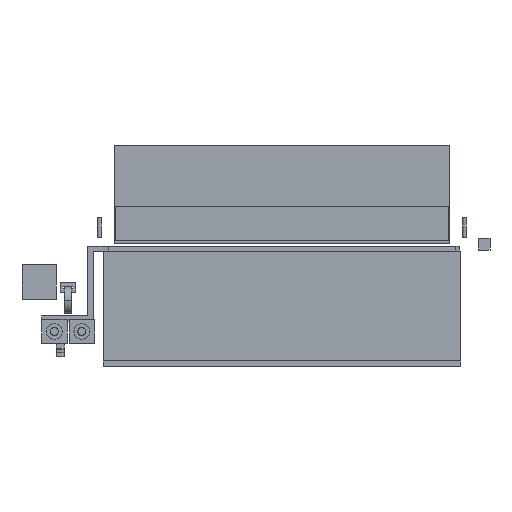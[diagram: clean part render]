
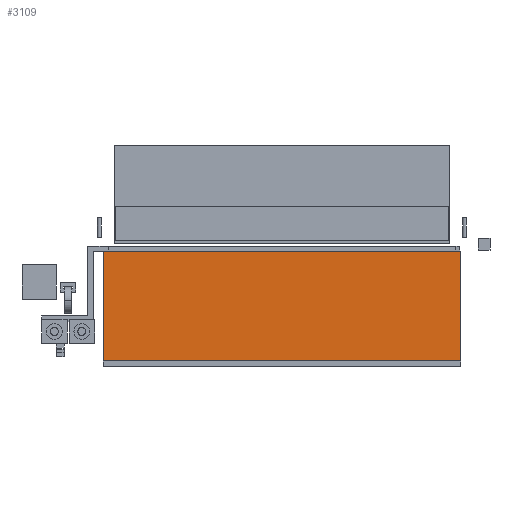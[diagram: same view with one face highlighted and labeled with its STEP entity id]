
A CAD part, front view. The second image highlights one B-rep face of the part: STEP entity #3109.
In plain terms, the highlighted planar face has unit normal (0, -1, 0).
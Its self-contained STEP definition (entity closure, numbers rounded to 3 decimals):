
#3033 = EDGE_CURVE('',#3034,#3036,#3038,.T.);
#3034 = VERTEX_POINT('',#3035);
#3035 = CARTESIAN_POINT('',(-12.,-212.,22.));
#3036 = VERTEX_POINT('',#3037);
#3037 = CARTESIAN_POINT('',(-12.,-212.,134.));
#3038 = LINE('',#3039,#3040);
#3039 = CARTESIAN_POINT('',(-12.,-212.,22.));
#3040 = VECTOR('',#3041,1.);
#3041 = DIRECTION('',(0.,0.,1.));
#3073 = EDGE_CURVE('',#3074,#3076,#3078,.T.);
#3074 = VERTEX_POINT('',#3075);
#3075 = CARTESIAN_POINT('',(352.5,-212.,22.));
#3076 = VERTEX_POINT('',#3077);
#3077 = CARTESIAN_POINT('',(352.5,-212.,134.));
#3078 = LINE('',#3079,#3080);
#3079 = CARTESIAN_POINT('',(352.5,-212.,22.));
#3080 = VECTOR('',#3081,1.);
#3081 = DIRECTION('',(0.,0.,1.));
#3109 = ADVANCED_FACE('',(#3110),#3126,.F.);
#3110 = FACE_BOUND('',#3111,.F.);
#3111 = EDGE_LOOP('',(#3112,#3118,#3119,#3125));
#3112 = ORIENTED_EDGE('',*,*,#3113,.F.);
#3113 = EDGE_CURVE('',#3034,#3074,#3114,.T.);
#3114 = LINE('',#3115,#3116);
#3115 = CARTESIAN_POINT('',(-12.,-212.,22.));
#3116 = VECTOR('',#3117,1.);
#3117 = DIRECTION('',(1.,0.,-0.));
#3118 = ORIENTED_EDGE('',*,*,#3033,.T.);
#3119 = ORIENTED_EDGE('',*,*,#3120,.T.);
#3120 = EDGE_CURVE('',#3036,#3076,#3121,.T.);
#3121 = LINE('',#3122,#3123);
#3122 = CARTESIAN_POINT('',(-12.,-212.,134.));
#3123 = VECTOR('',#3124,1.);
#3124 = DIRECTION('',(1.,0.,-0.));
#3125 = ORIENTED_EDGE('',*,*,#3073,.F.);
#3126 = PLANE('',#3127);
#3127 = AXIS2_PLACEMENT_3D('',#3128,#3129,#3130);
#3128 = CARTESIAN_POINT('',(-12.,-212.,22.));
#3129 = DIRECTION('',(-0.,1.,0.));
#3130 = DIRECTION('',(0.,0.,1.));
